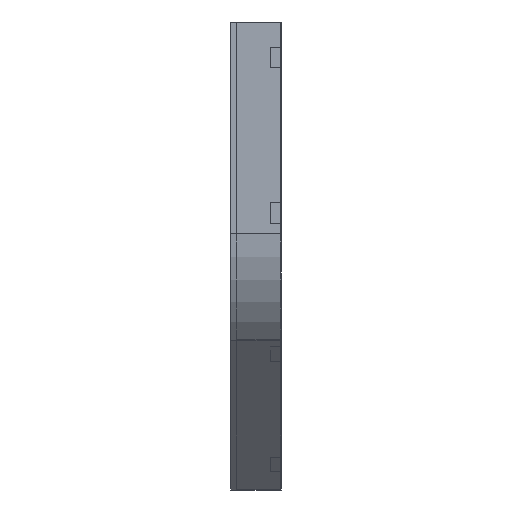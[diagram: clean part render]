
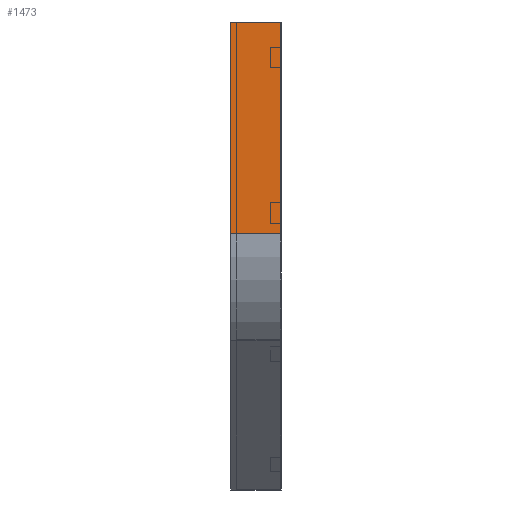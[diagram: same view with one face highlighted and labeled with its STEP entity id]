
A CAD part, left-side view. The second image highlights one B-rep face of the part: STEP entity #1473.
In plain terms, the highlighted planar face has unit normal (-1, 0, 0).
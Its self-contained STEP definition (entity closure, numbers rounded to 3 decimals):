
#86 = FACE_OUTER_BOUND ( 'NONE', #602, .T. ) ;
#95 = PLANE ( 'NONE',  #1685 ) ;
#98 = DIRECTION ( 'NONE',  ( 0., -1., 0. ) ) ;
#103 = LINE ( 'NONE', #805, #1471 ) ;
#150 = ORIENTED_EDGE ( 'NONE', *, *, #1277, .F. ) ;
#188 = CARTESIAN_POINT ( 'NONE',  ( 0., 0., 0. ) ) ;
#326 = VERTEX_POINT ( 'NONE', #1818 ) ;
#336 = CARTESIAN_POINT ( 'NONE',  ( 0., 0., 0. ) ) ;
#378 = ORIENTED_EDGE ( 'NONE', *, *, #808, .T. ) ;
#395 = DIRECTION ( 'NONE',  ( 0., 0., -1. ) ) ;
#602 = EDGE_LOOP ( 'NONE', ( #150, #622, #1791, #378 ) ) ;
#622 = ORIENTED_EDGE ( 'NONE', *, *, #705, .F. ) ;
#639 = DIRECTION ( 'NONE',  ( 1., 0., 0. ) ) ;
#667 = CARTESIAN_POINT ( 'NONE',  ( 0., 100., 0. ) ) ;
#705 = EDGE_CURVE ( 'NONE', #1170, #326, #1653, .T. ) ;
#805 = CARTESIAN_POINT ( 'NONE',  ( 0., 0., -422.792 ) ) ;
#807 = LINE ( 'NONE', #667, #922 ) ;
#808 = EDGE_CURVE ( 'NONE', #1616, #1131, #103, .T. ) ;
#922 = VECTOR ( 'NONE', #959, 1000. ) ;
#959 = DIRECTION ( 'NONE',  ( 0., 0., -1. ) ) ;
#1125 = LINE ( 'NONE', #1703, #1162 ) ;
#1131 = VERTEX_POINT ( 'NONE', #1469 ) ;
#1162 = VECTOR ( 'NONE', #395, 1000. ) ;
#1170 = VERTEX_POINT ( 'NONE', #1419 ) ;
#1277 = EDGE_CURVE ( 'NONE', #326, #1131, #1125, .T. ) ;
#1352 = DIRECTION ( 'NONE',  ( 0., 0., -1. ) ) ;
#1371 = DIRECTION ( 'NONE',  ( 0., -1., 0. ) ) ;
#1419 = CARTESIAN_POINT ( 'NONE',  ( 0., 100., 0. ) ) ;
#1469 = CARTESIAN_POINT ( 'NONE',  ( 0., 0., -422.792 ) ) ;
#1471 = VECTOR ( 'NONE', #98, 1000. ) ;
#1473 = ADVANCED_FACE ( 'NONE', ( #86 ), #95, .F. ) ;
#1593 = EDGE_CURVE ( 'NONE', #1170, #1616, #807, .T. ) ;
#1616 = VERTEX_POINT ( 'NONE', #1851 ) ;
#1618 = VECTOR ( 'NONE', #1371, 1000. ) ;
#1653 = LINE ( 'NONE', #188, #1618 ) ;
#1685 = AXIS2_PLACEMENT_3D ( 'NONE', #336, #639, #1352 ) ;
#1703 = CARTESIAN_POINT ( 'NONE',  ( 0., 0., 0. ) ) ;
#1791 = ORIENTED_EDGE ( 'NONE', *, *, #1593, .T. ) ;
#1818 = CARTESIAN_POINT ( 'NONE',  ( 0., 0., 0. ) ) ;
#1851 = CARTESIAN_POINT ( 'NONE',  ( 0., 100., -422.792 ) ) ;
